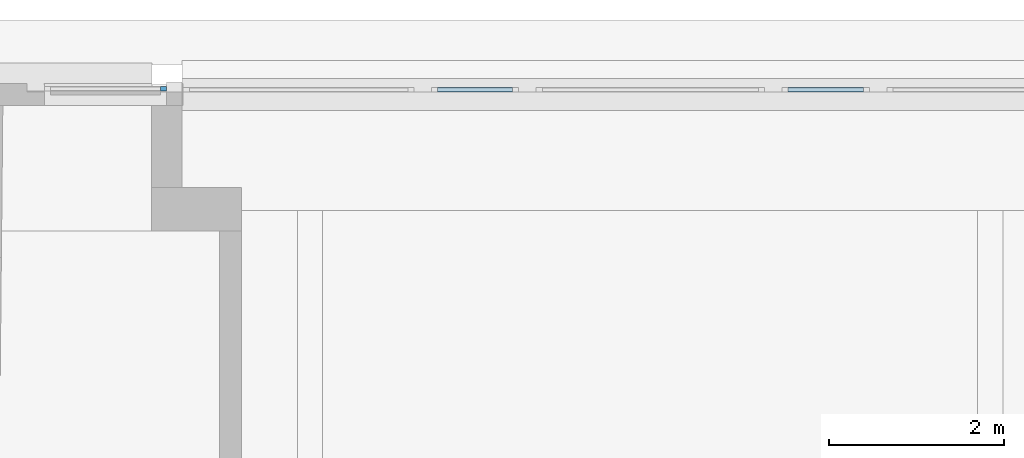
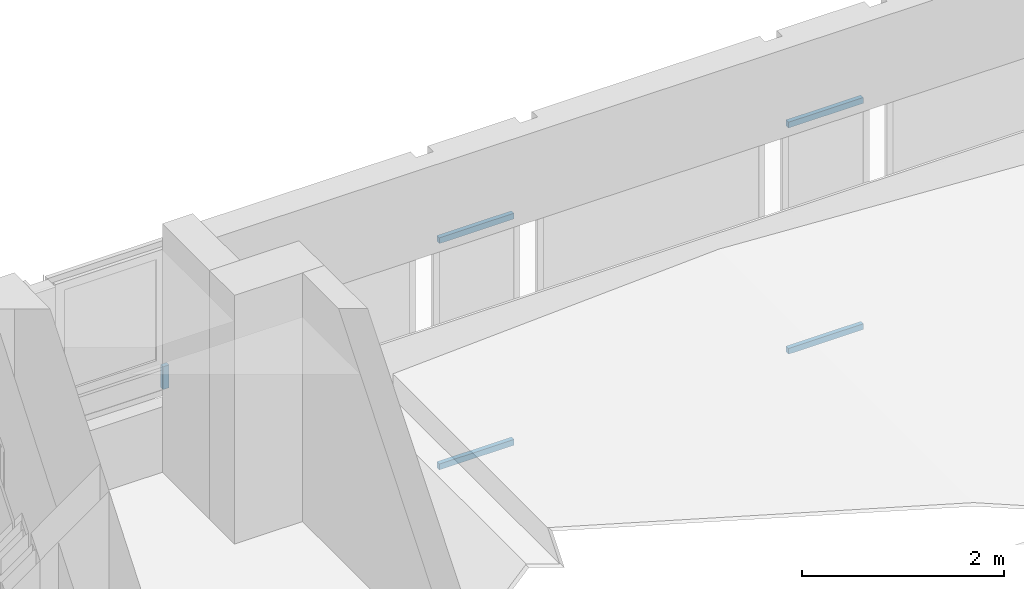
# One storey, part 24 of 97: 5 members, 3 elements without a shape of their own.
"""IFC4 building model written with IfcOpenShell, lengths in metres."""

from ifc_helpers import new_model, entity, si_unit, converted_unit, derived_unit, direction, frame, origin, place, context, subcontext, project, spatial, indexed_curve, outline, extrude, source, transform, mapped, material, type_object, type_shapes, element, aggregate, save


model = new_model("IFC4")

# Units and contexts
model_context = context("Model", 3, precision=1e-05, world=origin(), true_north=direction((6.12303176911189e-17, 1.0)))
body_context = subcontext(model_context, "Body", "Model", "MODEL_VIEW")
ifc_project = project(units=[si_unit("LENGTHUNIT", "METRE"), si_unit("AREAUNIT", "SQUARE_METRE"), si_unit("VOLUMEUNIT", "CUBIC_METRE"), converted_unit("PLANEANGLEUNIT", "DEGREE", entity("IfcRatioMeasure", 0.0174532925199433), si_unit("PLANEANGLEUNIT", "RADIAN"), dimensions=[0, 0, 0, 0, 0, 0, 0]), si_unit("MASSUNIT", "GRAM", prefix="KILO"), derived_unit("MASSDENSITYUNIT", [(si_unit("MASSUNIT", "GRAM", prefix="KILO"), 1), (si_unit("LENGTHUNIT", "METRE"), -3)]), derived_unit("MOMENTOFINERTIAUNIT", [(si_unit("LENGTHUNIT", "METRE"), 4)]), si_unit("TIMEUNIT", "SECOND"), si_unit("FREQUENCYUNIT", "HERTZ"), si_unit("THERMODYNAMICTEMPERATUREUNIT", "DEGREE_CELSIUS"), derived_unit("THERMALTRANSMITTANCEUNIT", [(si_unit("MASSUNIT", "GRAM", prefix="KILO"), 1), (si_unit("THERMODYNAMICTEMPERATUREUNIT", "KELVIN"), -1), (si_unit("TIMEUNIT", "SECOND"), -3)]), derived_unit("VOLUMETRICFLOWRATEUNIT", [(si_unit("LENGTHUNIT", "METRE"), 3), (si_unit("TIMEUNIT", "SECOND"), -1)]), si_unit("ELECTRICCURRENTUNIT", "AMPERE"), si_unit("ELECTRICVOLTAGEUNIT", "VOLT"), si_unit("POWERUNIT", "WATT"), si_unit("FORCEUNIT", "NEWTON", prefix="KILO"), si_unit("ILLUMINANCEUNIT", "LUX"), si_unit("LUMINOUSFLUXUNIT", "LUMEN"), si_unit("LUMINOUSINTENSITYUNIT", "CANDELA"), derived_unit("USERDEFINED", [(si_unit("MASSUNIT", "GRAM", prefix="KILO"), -1), (si_unit("LENGTHUNIT", "METRE"), -2), (si_unit("TIMEUNIT", "SECOND"), 3), (si_unit("LUMINOUSFLUXUNIT", "LUMEN"), 1)]), derived_unit("LINEARVELOCITYUNIT", [(si_unit("LENGTHUNIT", "METRE"), 1), (si_unit("TIMEUNIT", "SECOND"), -1)]), si_unit("PRESSUREUNIT", "PASCAL"), derived_unit("USERDEFINED", [(si_unit("LENGTHUNIT", "METRE"), -2), (si_unit("MASSUNIT", "GRAM", prefix="KILO"), 1), (si_unit("TIMEUNIT", "SECOND"), -2)]), derived_unit("LINEARFORCEUNIT", [(si_unit("MASSUNIT", "GRAM", prefix="KILO"), 1), (si_unit("LENGTHUNIT", "METRE"), 1), (si_unit("TIMEUNIT", "SECOND"), -2), (si_unit("LENGTHUNIT", "METRE"), -1)]), derived_unit("PLANARFORCEUNIT", [(si_unit("MASSUNIT", "GRAM", prefix="KILO"), 1), (si_unit("LENGTHUNIT", "METRE"), 1), (si_unit("TIMEUNIT", "SECOND"), -2), (si_unit("LENGTHUNIT", "METRE"), -2)])], contexts=[model_context])

# Site, building, storey
site_placement = place(None, origin())
site = spatial("IfcSite", under=ifc_project, at=site_placement, Name="Default", CompositionType="ELEMENT")
building_placement = place(site_placement, origin())
building = spatial("IfcBuilding", under=site, at=building_placement, Name="HOTEL CONSULAIRE BOULOGNE SUR MER", CompositionType="ELEMENT")
storey_placement = place(building_placement, frame((0.0, 0.0, 3.62152697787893)))
storey = spatial("IfcBuildingStorey", under=building, at=storey_placement, Name="Niveau 1", CompositionType="ELEMENT", Elevation=3.62152697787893)

# Curtain wall, member
curtain_wall_type = type_object("IfcCurtainWallType", Name="Mur-rideau:Simple panneau", PredefinedType="NOTDEFINED")
curtain_wall_1_placement = place(storey_placement, frame((0.0, 0.0, -3.62152697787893)))
curtain_wall_1 = element("IfcCurtainWall", 1, at=curtain_wall_1_placement, inside=storey, type_object=curtain_wall_type, Name="Mur-rideau:Simple panneau", ObjectType="Mur-rideau:Simple panneau", PredefinedType="NOTDEFINED")
ifc_material = material(Name="PVC - Blanc", Category="Plastique")
member_type_1 = type_object("IfcMemberType", Name="Meneau rectangulaire:50 x 35", PredefinedType="MULLION", material=ifc_material)
shared_shape_1 = source(origin(), body_context, "Body", "SweptSolid", [
    extrude(outline(indexed_curve([(-0.025, -0.035), (0.025, -0.035), (0.025, 0.035), (-0.025, 0.035), (-0.025, -0.035)], self_intersect=False)), frame((-0.035, -0.025, -0.278), z_axis=(0.0, 0.0, 1.0), x_axis=(0.0, -1.0, 0.0)), (0.0, 0.0, 1.0), 0.278),
])
type_shapes(member_type_1, [shared_shape_1])
member_1_placement = place(storey_placement, frame((11.4734778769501, -10.0746323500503, 0.861612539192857), z_axis=(0.0, 0.0, -1.0), x_axis=(1.0, 0.0, 0.0)))
member_1 = element("IfcMember", 2, at=member_1_placement, type_object=member_type_1, material=ifc_material, Name="Meneau rectangulaire:50 x 35", ObjectType="Meneau rectangulaire:50 x 35", PredefinedType="MULLION", context=body_context, shape_type="MappedRepresentation", body=[
    mapped(shared_shape_1, transform((0.0, 0.0, 0.0), scale=1.0)),
])
aggregate(curtain_wall_1, [member_1])

# Curtain wall, members
curtain_wall_2_placement = place(storey_placement, frame((0.0, 0.0, -3.62152697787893)))
curtain_wall_2 = element("IfcCurtainWall", 3, at=curtain_wall_2_placement, inside=storey, type_object=curtain_wall_type, Name="Mur-rideau:Simple panneau", ObjectType="Mur-rideau:Simple panneau", PredefinedType="NOTDEFINED")
member_type_2 = type_object("IfcMemberType", Name="Meneau rectangulaire:50 x 35", PredefinedType="MULLION", material=ifc_material)
shared_shape_2 = source(origin(), body_context, "Body", "SweptSolid", [
    extrude(outline(indexed_curve([(-0.025, -0.035), (0.025, -0.035), (0.025, 0.035), (-0.025, 0.035), (-0.025, -0.035)], self_intersect=False)), frame((-0.035, -0.025, -0.854508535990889), z_axis=(0.0, 0.0, 1.0), x_axis=(0.0, -1.0, 0.0)), (0.0, 0.0, 1.0), 0.854508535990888),
])
type_shapes(member_type_2, [shared_shape_2])
member_2_placement = place(storey_placement, frame((14.5630366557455, -10.0330173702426, 1.59936343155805), z_axis=(-1.0, 0.0, 0.0), x_axis=(0.0, 0.0, 1.0)))
member_2 = element("IfcMember", 4, at=member_2_placement, type_object=member_type_2, material=ifc_material, Name="Meneau rectangulaire:50 x 35", ObjectType="Meneau rectangulaire:50 x 35", PredefinedType="MULLION", context=body_context, shape_type="MappedRepresentation", body=[
    mapped(shared_shape_2, transform((0.0, 0.0, 0.0), scale=1.0)),
])
member_type_3 = type_object("IfcMemberType", Name="Meneau rectangulaire:50 x 35", PredefinedType="MULLION", material=ifc_material)
shared_shape_3 = source(origin(), body_context, "Body", "SweptSolid", [
    extrude(outline(indexed_curve([(-0.025, -0.035), (0.025, -0.035), (0.025, 0.035), (-0.025, 0.035), (-0.025, -0.035)], self_intersect=False)), frame((-0.035, -0.025, -0.854508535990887), z_axis=(0.0, 0.0, 1.0), x_axis=(0.0, -1.0, 0.0)), (0.0, 0.0, 1.0), 0.854508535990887),
])
type_shapes(member_type_3, [shared_shape_3])
member_3_placement = place(storey_placement, frame((15.4175451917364, -10.0330173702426, -1.21), z_axis=(1.0, 0.0, 0.0), x_axis=(0.0, 0.0, -1.0)))
member_3 = element("IfcMember", 5, at=member_3_placement, type_object=member_type_3, material=ifc_material, Name="Meneau rectangulaire:50 x 35", ObjectType="Meneau rectangulaire:50 x 35", PredefinedType="MULLION", context=body_context, shape_type="MappedRepresentation", body=[
    mapped(shared_shape_3, transform((0.0, 0.0, 0.0), scale=1.0)),
])
aggregate(curtain_wall_2, [member_2, member_3])

curtain_wall_3_placement = place(storey_placement, frame((0.0, 0.0, -3.62152697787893)))
curtain_wall_3 = element("IfcCurtainWall", 6, at=curtain_wall_3_placement, inside=storey, type_object=curtain_wall_type, Name="Mur-rideau:Simple panneau", ObjectType="Mur-rideau:Simple panneau", PredefinedType="NOTDEFINED")
member_type_4 = type_object("IfcMemberType", Name="Meneau rectangulaire:50 x 35", PredefinedType="MULLION", material=ifc_material)
shared_shape_4 = source(origin(), body_context, "Body", "SweptSolid", [
    extrude(outline(indexed_curve([(-0.025, -0.035), (0.025, -0.035), (0.025, 0.035), (-0.025, 0.035), (-0.025, -0.035)], self_intersect=False)), frame((-0.035, -0.025, -0.858525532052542), z_axis=(0.0, 0.0, 1.0), x_axis=(0.0, -1.0, 0.0)), (0.0, 0.0, 1.0), 0.858525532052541),
])
type_shapes(member_type_4, [shared_shape_4])
member_4_placement = place(storey_placement, frame((18.5610544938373, -10.0330173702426, 1.59936343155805), z_axis=(-1.0, 0.0, 0.0), x_axis=(0.0, 0.0, 1.0)))
member_4 = element("IfcMember", 7, at=member_4_placement, type_object=member_type_4, material=ifc_material, Name="Meneau rectangulaire:50 x 35", ObjectType="Meneau rectangulaire:50 x 35", PredefinedType="MULLION", context=body_context, shape_type="MappedRepresentation", body=[
    mapped(shared_shape_4, transform((0.0, 0.0, 0.0), scale=1.0)),
])
member_type_5 = type_object("IfcMemberType", Name="Meneau rectangulaire:50 x 35", PredefinedType="MULLION", material=ifc_material)
shared_shape_5 = source(origin(), body_context, "Body", "SweptSolid", [
    extrude(outline(indexed_curve([(-0.025, -0.035), (0.025, -0.035), (0.025, 0.035), (-0.025, 0.035), (-0.025, -0.035)], self_intersect=False)), frame((-0.035, -0.025, -0.858525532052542), z_axis=(0.0, 0.0, 1.0), x_axis=(0.0, -1.0, 0.0)), (0.0, 0.0, 1.0), 0.858525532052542),
])
type_shapes(member_type_5, [shared_shape_5])
member_5_placement = place(storey_placement, frame((19.4195800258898, -10.0330173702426, -1.21), z_axis=(1.0, 0.0, 0.0), x_axis=(0.0, 0.0, -1.0)))
member_5 = element("IfcMember", 8, at=member_5_placement, type_object=member_type_5, material=ifc_material, Name="Meneau rectangulaire:50 x 35", ObjectType="Meneau rectangulaire:50 x 35", PredefinedType="MULLION", context=body_context, shape_type="MappedRepresentation", body=[
    mapped(shared_shape_5, transform((0.0, 0.0, 0.0), scale=1.0)),
])
aggregate(curtain_wall_3, [member_4, member_5])

save(model, "model.ifc")
